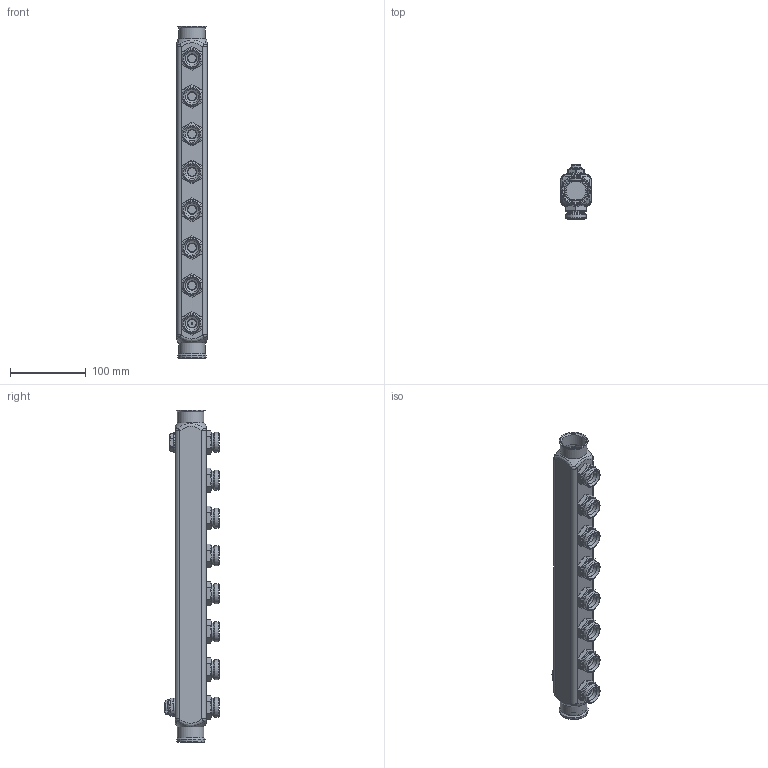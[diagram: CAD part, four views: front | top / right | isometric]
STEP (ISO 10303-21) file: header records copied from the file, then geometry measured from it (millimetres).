
FILE_DESCRIPTION(('STEP AP203'), '1');
FILE_NAME('VTc.505.SQ.060508', '2026-02-20T10:31:36', ('verevichevva'), ('Vesta'), 'C3D Converter', 'C3D Toolkit', '');
FILE_SCHEMA(('CONFIG_CONTROL_DESIGN'));
Length unit declared in the file: millimetre
Products named in the file (1): ВР.622621.189.000 СБ
Bounding box: 40 x 71.6 x 438.5 mm (x, y, z)
Volume: 177467.3 mm3; surface area: 178817.9 mm2
Topology: 25 solids, 25 shells, 1000 faces, 2385 edges, 1470 vertices
Faces by surface type: plane 357, cone 202, cylinder 156, extrusion 118, torus 95, bspline 72
Full cylindrical faces by diameter (mm): 1.6 x1, 2.3 x1, 3.4 x1, 4.134 x1, 5 x1, 5.3 x1, 6.3 x2, 9.6 x1, 10.2 x1, 11 x8, 12.5 x8, 13 x1, 14 x1, 15.7 x1, 18 x9, 18.1 x8, 18.5 x1, 19 x9, 19.294 x1, 19.5 x2, 20 x1, 20.955 x10, 22 x1, 22.2 x10, 23 x1, 23.5 x8, 24 x1, 25.5 x1, 26 x1, 26.441 x8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
Entity records: 39115 total; most frequent: CARTESIAN_POINT 18501, ORIENTED_EDGE 4182, DIRECTION 3741, EDGE_CURVE 2091, VERTEX_POINT 1445, AXIS2_PLACEMENT_3D 1432, EDGE_LOOP 1326, ADVANCED_FACE 989
